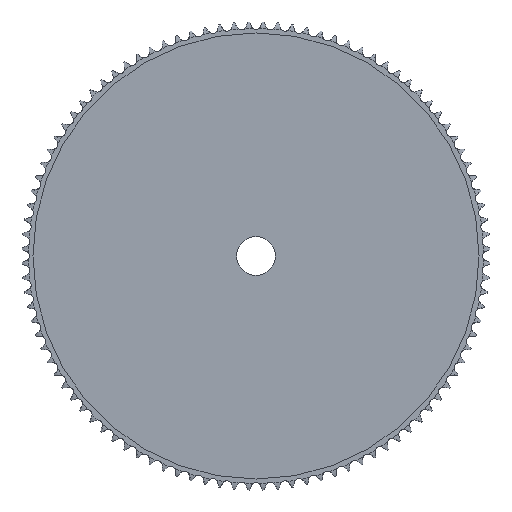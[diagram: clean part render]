
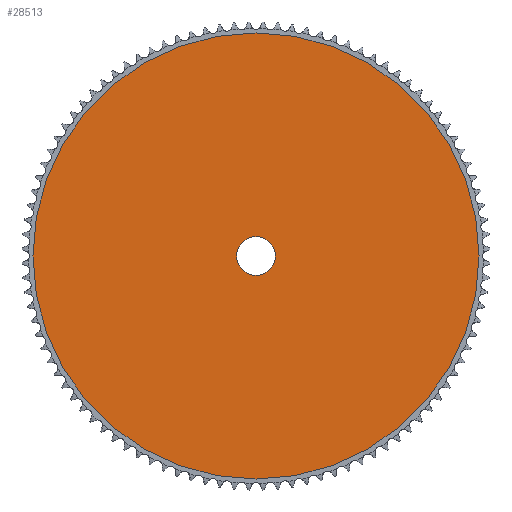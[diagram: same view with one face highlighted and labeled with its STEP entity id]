
A CAD part, top view. The second image highlights one B-rep face of the part: STEP entity #28513.
In plain terms, the highlighted planar face has unit normal (0, 0, 1).
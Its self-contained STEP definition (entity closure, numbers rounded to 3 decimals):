
#16067=CARTESIAN_POINT('',(0.,0.,2.));
#16068=DIRECTION('',(0.,0.,-1.));
#16069=DIRECTION('',(-1.,0.,0.));
#16070=AXIS2_PLACEMENT_3D('',#16067,#16068,#16069);
#16075=CARTESIAN_POINT('',(0.,0.,2.));
#16076=DIRECTION('',(0.,0.,-1.));
#16077=DIRECTION('',(1.,0.,0.));
#16078=AXIS2_PLACEMENT_3D('',#16075,#16076,#16077);
#16083=CARTESIAN_POINT('',(0.,0.,2.));
#16084=DIRECTION('',(0.,0.,1.));
#16085=DIRECTION('',(1.,0.,0.));
#16086=AXIS2_PLACEMENT_3D('',#16083,#16084,#16085);
#16091=CARTESIAN_POINT('',(0.,0.,2.));
#16092=DIRECTION('',(0.,0.,1.));
#16093=DIRECTION('',(-1.,0.,0.));
#16094=AXIS2_PLACEMENT_3D('',#16091,#16092,#16093);
#17754=CARTESIAN_POINT('',(-92.009,0.,2.));
#17755=CARTESIAN_POINT('',(92.009,0.,2.));
#17756=VERTEX_POINT('',#17754);
#17757=VERTEX_POINT('',#17755);
#17774=CARTESIAN_POINT('',(8.,0.,2.));
#17775=VERTEX_POINT('',#17774);
#17776=CARTESIAN_POINT('',(-8.,0.,2.));
#17777=VERTEX_POINT('',#17776);
#28498=CARTESIAN_POINT('',(0.,0.,2.));
#28499=DIRECTION('',(0.,0.,1.));
#28500=DIRECTION('',(1.,0.,0.));
#28501=AXIS2_PLACEMENT_3D('',#28498,#28499,#28500);
#28502=PLANE('',#28501);
#28503=ORIENTED_EDGE('',*,*,#28450,.T.);
#28504=ORIENTED_EDGE('',*,*,#28479,.T.);
#28505=EDGE_LOOP('',(#28503,#28504));
#28506=FACE_OUTER_BOUND('',#28505,.F.);
#28508=ORIENTED_EDGE('',*,*,#28507,.T.);
#28510=ORIENTED_EDGE('',*,*,#28509,.T.);
#28511=EDGE_LOOP('',(#28508,#28510));
#28512=FACE_BOUND('',#28511,.F.);
#28513=ADVANCED_FACE('',(#28506,#28512),#28502,.T.);
#16071=CIRCLE('',#16070,92.009);
#16079=CIRCLE('',#16078,92.009);
#16087=CIRCLE('',#16086,8.);
#16095=CIRCLE('',#16094,8.);
#28450=EDGE_CURVE('',#17756,#17757,#16071,.T.);
#28479=EDGE_CURVE('',#17757,#17756,#16079,.T.);
#28507=EDGE_CURVE('',#17775,#17777,#16087,.T.);
#28509=EDGE_CURVE('',#17777,#17775,#16095,.T.);
